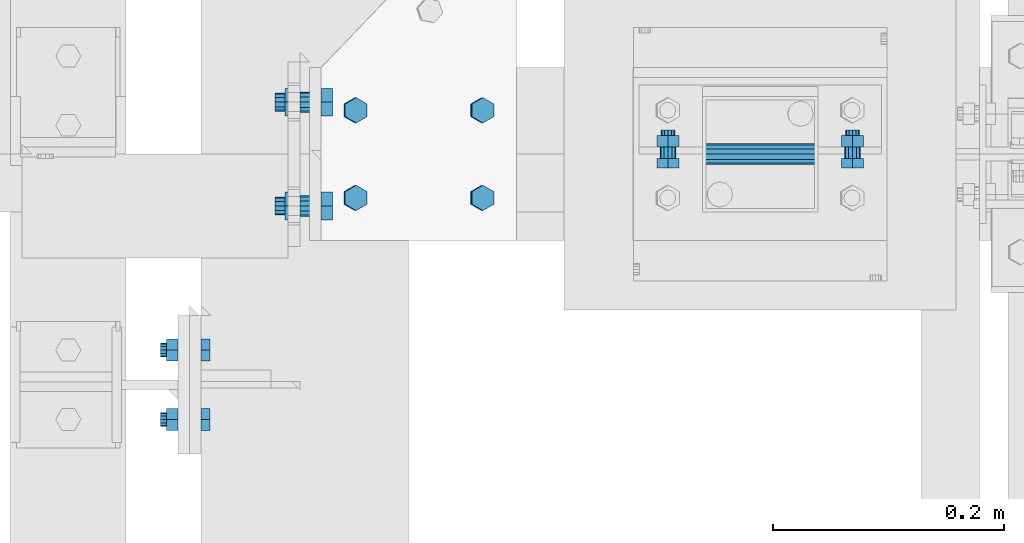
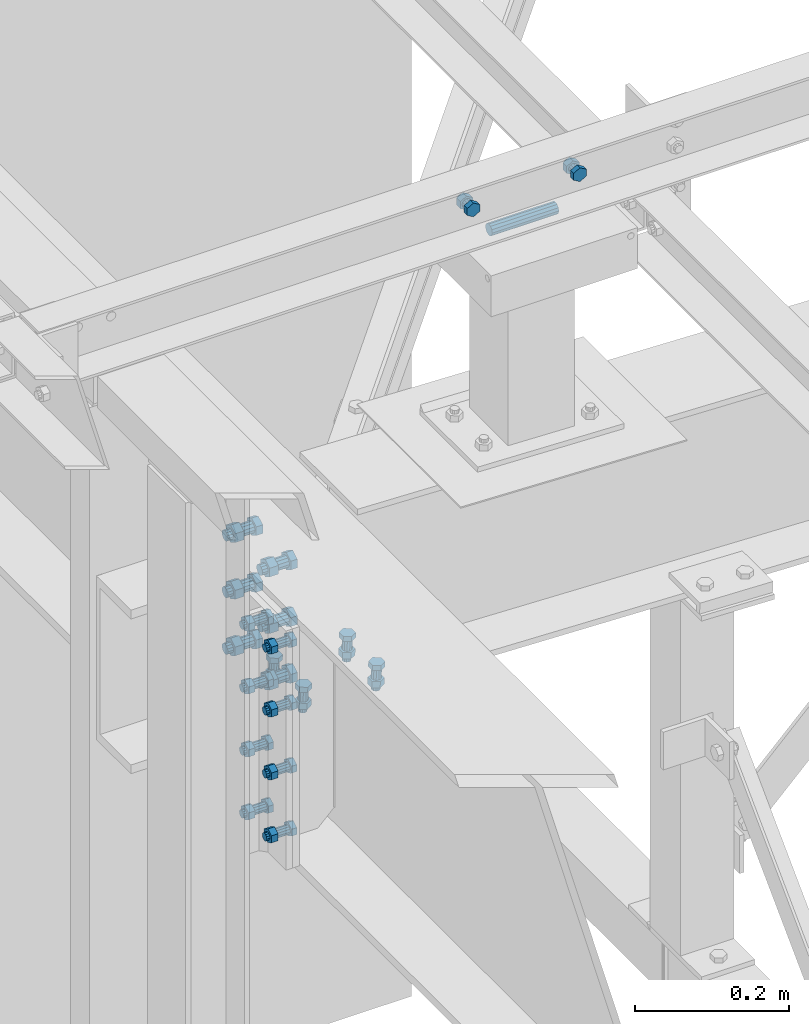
# One storey, part 70 of 3134: 5 mechanical fasteners, 3 elements without a shape of their own.
"""IFC2X3 building model written with IfcOpenShell, lengths in millimetres."""

from ifc_helpers import new_model, si_unit, frame, origin_with_axes, place, context, subcontext, project, spatial, faceted_brep, source, transform, mapped, material, type_object, element, aggregate, save


model = new_model("IFC2X3")

# Units and contexts
model_context = context("Model", 3, precision=1e-05, world=origin_with_axes())
body_context = subcontext(model_context, "Body", "Model", "MODEL_VIEW")
ifc_project = project(units=[si_unit("LENGTHUNIT", "METRE", prefix="MILLI"), si_unit("AREAUNIT", "SQUARE_METRE"), si_unit("VOLUMEUNIT", "CUBIC_METRE"), si_unit("MASSUNIT", "GRAM", prefix="KILO"), si_unit("TIMEUNIT", "SECOND"), si_unit("PLANEANGLEUNIT", "RADIAN"), si_unit("SOLIDANGLEUNIT", "STERADIAN"), si_unit("THERMODYNAMICTEMPERATUREUNIT", "DEGREE_CELSIUS"), si_unit("LUMINOUSINTENSITYUNIT", "LUMEN")], contexts=[model_context])

# Site, building, storey
site_placement = place(None, origin_with_axes())
site = spatial("IfcSite", under=ifc_project, at=site_placement, CompositionType="ELEMENT")
building_placement = place(site_placement, origin_with_axes())
building = spatial("IfcBuilding", under=site, at=building_placement, Name="Undefined", CompositionType="ELEMENT")
storey_placement = place(building_placement, origin_with_axes())
storey = spatial("IfcBuildingStorey", under=building, at=storey_placement, Name="Undefined", CompositionType="ELEMENT", Elevation=0.0)

# Assembly, mechanical fastener
assembly_1_placement = place(storey_placement, origin_with_axes())
assembly_1 = element("IfcElementAssembly", 1, at=assembly_1_placement, inside=storey, Name="IPE400", AssemblyPlace="NOTDEFINED", PredefinedType="RIGID_FRAME")
ifc_material = material(Name="8.8")
mechanical_fastener_type = type_object("IfcMechanicalFastenerType", Name="Bolt assembly")
shared_shape_1 = source(origin_with_axes(), body_context, "Body", "Brep", [
    faceted_brep([(10.9696551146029, -18.0, 0.0), (5.48482755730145, -18.0, 9.5), (-5.48482755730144, -18.0, 9.5), (-10.9696551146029, -18.0, 1.34339530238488e-15), (-5.48482755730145, -18.0, -9.5), (5.48482755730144, -18.0, -9.50000000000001), (5.48482755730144, -10.0, -9.50000000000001), (-5.48482755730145, -10.0, -9.5), (-10.9696551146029, -10.0, 1.34339530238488e-15), (-5.48482755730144, -10.0, 9.5), (5.48482755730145, -10.0, 9.5), (10.9696551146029, -10.0, 0.0), (6.0, -10.0, 0.0), (5.19615242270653, -10.0, 3.00000000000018), (2.99999999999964, -10.0, 5.19615242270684), (-6.21801588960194e-13, -10.0, 6.0), (-3.00000000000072, -10.0, 5.19615242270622), (-5.19615242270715, -10.0, 2.9999999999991), (-6.0, -10.0, -1.24360317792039e-12), (-5.19615242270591, -10.0, -3.00000000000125), (-2.99999999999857, -10.0, -5.19615242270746), (1.85874342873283e-12, -10.0, -6.0), (3.00000000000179, -10.0, -5.1961524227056), (5.19615242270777, -10.0, -2.99999999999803), (5.19615242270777, 24.9999999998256, -2.99999999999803), (3.00000000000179, 24.9999999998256, -5.1961524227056), (1.85874342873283e-12, 24.9999999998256, -6.0), (-2.99999999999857, 24.9999999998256, -5.19615242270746), (-5.19615242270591, 24.9999999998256, -3.00000000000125), (-6.0, 24.9999999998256, -1.24360317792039e-12), (-5.19615242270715, 24.9999999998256, 2.9999999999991), (-3.00000000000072, 24.9999999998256, 5.19615242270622), (-6.21801588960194e-13, 24.9999999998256, 6.0), (2.99999999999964, 24.9999999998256, 5.19615242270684), (5.19615242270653, 24.9999999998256, 3.00000000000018), (6.0, 24.9999999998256, 0.0), (10.9696551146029, 10.0, 0.0), (5.48482755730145, 10.0, 9.5), (-5.48482755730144, 10.0, 9.5), (-10.9696551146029, 10.0, 1.34339530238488e-15), (-5.48482755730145, 10.0, -9.5), (5.48482755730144, 10.0, -9.50000000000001), (5.48482755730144, 20.0, -9.50000000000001), (-5.48482755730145, 20.0, -9.5), (-10.9696551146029, 20.0, 1.34339530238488e-15), (-5.48482755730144, 20.0, 9.5), (5.48482755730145, 20.0, 9.5), (10.9696551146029, 20.0, 0.0)], [[[0, 1, 2, 3, 4, 5]], [[6, 7, 8, 9, 10, 11]], [[0, 11, 10, 1]], [[1, 10, 9, 2]], [[2, 9, 8, 3]], [[3, 8, 7, 4]], [[4, 7, 6, 5]], [[5, 6, 11, 0]], [[12, 13, 14, 15, 16, 17, 18, 19, 20, 21, 22, 23]], [[24, 25, 26, 27, 28, 29, 30, 31, 32, 33, 34, 35]], [[12, 35, 34, 13]], [[13, 34, 33, 14]], [[14, 33, 32, 15]], [[15, 32, 31, 16]], [[16, 31, 30, 17]], [[17, 30, 29, 18]], [[18, 29, 28, 19]], [[19, 28, 27, 20]], [[20, 27, 26, 21]], [[21, 26, 25, 22]], [[22, 25, 24, 23]], [[23, 24, 35, 12]], [[36, 37, 38, 39, 40, 41]], [[42, 43, 44, 45, 46, 47]], [[36, 47, 46, 37]], [[37, 46, 45, 38]], [[38, 45, 44, 39]], [[39, 44, 43, 40]], [[40, 43, 42, 41]], [[41, 42, 47, 36]]]),
    faceted_brep([(7.0, -0.1, 0.0), (6.06217782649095, -0.1, 3.50000000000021), (3.49999999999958, -0.1, 6.06217782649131), (-7.25435187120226e-13, -0.1, 7.0), (-3.50000000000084, -0.1, 6.06217782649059), (-6.06217782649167, -0.1, 3.49999999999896), (-7.0, -0.1, -1.45087037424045e-12), (-6.06217782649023, -0.1, -3.50000000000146), (-3.49999999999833, -0.1, -6.06217782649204), (2.1685340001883e-12, -0.1, -7.0), (3.50000000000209, -0.1, -6.06217782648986), (6.0621778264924, -0.1, -3.4999999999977), (6.0621778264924, 10.0, -3.4999999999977), (3.50000000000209, 10.0, -6.06217782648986), (2.1685340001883e-12, 10.0, -7.0), (-3.49999999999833, 10.0, -6.06217782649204), (-6.06217782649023, 10.0, -3.50000000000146), (-7.0, 10.0, -1.45087037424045e-12), (-6.06217782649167, 10.0, 3.49999999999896), (-3.50000000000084, 10.0, 6.06217782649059), (-7.25435187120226e-13, 10.0, 7.0), (3.49999999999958, 10.0, 6.06217782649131), (6.06217782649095, 10.0, 3.50000000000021), (7.0, 10.0, 0.0), (7.0, -9.89999913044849, 0.0), (6.06217782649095, -9.89999913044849, 3.50000000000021), (3.49999999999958, -9.89999913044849, 6.06217782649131), (-7.25435187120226e-13, -9.89999913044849, 7.0), (-3.50000000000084, -9.89999913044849, 6.06217782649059), (-6.06217782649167, -9.89999913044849, 3.49999999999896), (-7.0, -9.89999913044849, -1.45087037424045e-12), (-6.06217782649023, -9.89999913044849, -3.50000000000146), (-3.49999999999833, -9.89999913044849, -6.06217782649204), (2.1685340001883e-12, -9.89999913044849, -7.0), (3.50000000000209, -9.89999913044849, -6.06217782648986), (6.0621778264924, -9.89999913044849, -3.4999999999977), (6.0621778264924, 0.0999999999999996, -3.4999999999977), (3.50000000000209, 0.0999999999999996, -6.06217782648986), (2.1685340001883e-12, 0.0999999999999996, -7.0), (-3.49999999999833, 0.0999999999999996, -6.06217782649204), (-6.06217782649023, 0.0999999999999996, -3.50000000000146), (-7.0, 0.0999999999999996, -1.45087037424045e-12), (-6.06217782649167, 0.0999999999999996, 3.49999999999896), (-3.50000000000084, 0.0999999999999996, 6.06217782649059), (-7.25435187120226e-13, 0.0999999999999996, 7.0), (3.49999999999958, 0.0999999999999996, 6.06217782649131), (6.06217782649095, 0.0999999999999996, 3.50000000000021), (7.0, 0.0999999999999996, 0.0)], [[[0, 1, 2, 3, 4, 5, 6, 7, 8, 9, 10, 11]], [[12, 13, 14, 15, 16, 17, 18, 19, 20, 21, 22, 23]], [[0, 23, 22, 1]], [[1, 22, 21, 2]], [[2, 21, 20, 3]], [[3, 20, 19, 4]], [[4, 19, 18, 5]], [[5, 18, 17, 6]], [[6, 17, 16, 7]], [[7, 16, 15, 8]], [[8, 15, 14, 9]], [[9, 14, 13, 10]], [[10, 13, 12, 11]], [[11, 12, 23, 0]], [[24, 25, 26, 27, 28, 29, 30, 31, 32, 33, 34, 35]], [[36, 37, 38, 39, 40, 41, 42, 43, 44, 45, 46, 47]], [[24, 47, 46, 25]], [[25, 46, 45, 26]], [[26, 45, 44, 27]], [[27, 44, 43, 28]], [[28, 43, 42, 29]], [[29, 42, 41, 30]], [[30, 41, 40, 31]], [[31, 40, 39, 32]], [[32, 39, 38, 33]], [[33, 38, 37, 34]], [[34, 37, 36, 35]], [[35, 36, 47, 24]]]),
])
mechanical_fastener_1_placement = place(assembly_1_placement, frame((-100.0, 29375.0, 3990.0), z_axis=(0.0, 1.0, 0.0), x_axis=(0.0, 0.0, -1.0)))
mechanical_fastener_1 = element("IfcMechanicalFastener", 2, at=mechanical_fastener_1_placement, type_object=mechanical_fastener_type, material=ifc_material, Name="Bolt assembly", NominalDiameter=12.0, NominalLength=35.0, context=body_context, shape_type="MappedRepresentation", body=[
    mapped(shared_shape_1, transform((0.0, 4.54747350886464e-13, -30.0000000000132))),
    mapped(shared_shape_1, transform((100.0, 0.0, -30.0))),
    mapped(shared_shape_1, transform((200.0, 0.0, -30.0))),
    mapped(shared_shape_1, transform((300.0, 0.0, -30.0))),
    mapped(shared_shape_1, transform((0.0, 4.54747350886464e-13, 30.0000000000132))),
    mapped(shared_shape_1, transform((100.0, 0.0, 30.0))),
    mapped(shared_shape_1, transform((200.0, 0.0, 30.0))),
    mapped(shared_shape_1, transform((300.0, 0.0, 30.0))),
])

assembly_2_placement = place(storey_placement, origin_with_axes())
assembly_2 = element("IfcElementAssembly", 3, at=assembly_2_placement, inside=storey, Name="PL8", AssemblyPlace="NOTDEFINED", PredefinedType="RIGID_FRAME")
shared_shape_2 = source(origin_with_axes(), body_context, "Body", "Brep", [
    faceted_brep([(10.9696551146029, -21.2000017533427, 0.0), (5.48482755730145, -21.2000017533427, 9.5), (-5.48482755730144, -21.2000017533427, 9.5), (-10.9696551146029, -21.2000017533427, 1.34339530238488e-15), (-5.48482755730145, -21.2000017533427, -9.5), (5.48482755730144, -21.2000017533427, -9.50000000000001), (5.48482755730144, -13.2000017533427, -9.50000000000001), (-5.48482755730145, -13.2000017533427, -9.5), (-10.9696551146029, -13.2000017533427, 1.34339530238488e-15), (-5.48482755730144, -13.2000017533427, 9.5), (5.48482755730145, -13.2000017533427, 9.5), (10.9696551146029, -13.2000017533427, 0.0), (6.0, -13.2000017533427, 0.0), (5.19615242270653, -13.2000017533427, 3.00000000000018), (2.99999999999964, -13.2000017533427, 5.19615242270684), (-6.21801588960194e-13, -13.2000017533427, 6.0), (-3.00000000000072, -13.2000017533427, 5.19615242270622), (-5.19615242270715, -13.2000017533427, 2.9999999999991), (-6.0, -13.2000017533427, -1.24360317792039e-12), (-5.19615242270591, -13.2000017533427, -3.00000000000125), (-2.99999999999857, -13.2000017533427, -5.19615242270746), (1.85874342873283e-12, -13.2000017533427, -6.0), (3.00000000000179, -13.2000017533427, -5.1961524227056), (5.19615242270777, -13.2000017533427, -2.99999999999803), (5.19615242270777, 21.7999982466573, -2.99999999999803), (3.00000000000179, 21.7999982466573, -5.1961524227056), (1.85874342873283e-12, 21.7999982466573, -6.0), (-2.99999999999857, 21.7999982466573, -5.19615242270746), (-5.19615242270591, 21.7999982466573, -3.00000000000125), (-6.0, 21.7999982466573, -1.24360317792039e-12), (-5.19615242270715, 21.7999982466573, 2.9999999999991), (-3.00000000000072, 21.7999982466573, 5.19615242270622), (-6.21801588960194e-13, 21.7999982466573, 6.0), (2.99999999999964, 21.7999982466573, 5.19615242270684), (5.19615242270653, 21.7999982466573, 3.00000000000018), (6.0, 21.7999982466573, 0.0), (10.9696551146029, 4.00000000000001, 0.0), (5.48482755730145, 4.00000000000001, 9.5), (-5.48482755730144, 4.00000000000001, 9.5), (-10.9696551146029, 4.00000000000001, 1.34339530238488e-15), (-5.48482755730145, 4.00000000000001, -9.5), (5.48482755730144, 4.00000000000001, -9.50000000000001), (5.48482755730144, 14.0, -9.50000000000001), (-5.48482755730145, 14.0, -9.5), (-10.9696551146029, 14.0, 1.34339530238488e-15), (-5.48482755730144, 14.0, 9.5), (5.48482755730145, 14.0, 9.5), (10.9696551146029, 14.0, 0.0)], [[[0, 1, 2, 3, 4, 5]], [[6, 7, 8, 9, 10, 11]], [[0, 11, 10, 1]], [[1, 10, 9, 2]], [[2, 9, 8, 3]], [[3, 8, 7, 4]], [[4, 7, 6, 5]], [[5, 6, 11, 0]], [[12, 13, 14, 15, 16, 17, 18, 19, 20, 21, 22, 23]], [[24, 25, 26, 27, 28, 29, 30, 31, 32, 33, 34, 35]], [[12, 35, 34, 13]], [[13, 34, 33, 14]], [[14, 33, 32, 15]], [[15, 32, 31, 16]], [[16, 31, 30, 17]], [[17, 30, 29, 18]], [[18, 29, 28, 19]], [[19, 28, 27, 20]], [[20, 27, 26, 21]], [[21, 26, 25, 22]], [[22, 25, 24, 23]], [[23, 24, 35, 12]], [[36, 37, 38, 39, 40, 41]], [[42, 43, 44, 45, 46, 47]], [[36, 47, 46, 37]], [[37, 46, 45, 38]], [[38, 45, 44, 39]], [[39, 44, 43, 40]], [[40, 43, 42, 41]], [[41, 42, 47, 36]]]),
    faceted_brep([(7.0, -13.1000017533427, 0.0), (6.06217782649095, -13.1000017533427, 3.50000000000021), (3.49999999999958, -13.1000017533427, 6.06217782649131), (-7.25435187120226e-13, -13.1000017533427, 7.0), (-3.50000000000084, -13.1000017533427, 6.06217782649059), (-6.06217782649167, -13.1000017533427, 3.49999999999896), (-7.0, -13.1000017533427, -1.45087037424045e-12), (-6.06217782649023, -13.1000017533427, -3.50000000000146), (-3.49999999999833, -13.1000017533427, -6.06217782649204), (2.1685340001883e-12, -13.1000017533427, -7.0), (3.50000000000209, -13.1000017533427, -6.06217782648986), (6.0621778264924, -13.1000017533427, -3.4999999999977), (6.0621778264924, -3.9, -3.4999999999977), (3.50000000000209, -3.9, -6.06217782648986), (2.1685340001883e-12, -3.9, -7.0), (-3.49999999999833, -3.9, -6.06217782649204), (-6.06217782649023, -3.9, -3.50000000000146), (-7.0, -3.9, -1.45087037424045e-12), (-6.06217782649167, -3.9, 3.49999999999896), (-3.50000000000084, -3.9, 6.06217782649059), (-7.25435187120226e-13, -3.9, 7.0), (3.49999999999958, -3.9, 6.06217782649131), (6.06217782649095, -3.9, 3.50000000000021), (7.0, -3.9, 0.0), (7.0, -4.09998541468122, 0.0), (6.06217782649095, -4.09998541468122, 3.50000000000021), (3.49999999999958, -4.09998541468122, 6.06217782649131), (-7.25435187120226e-13, -4.09998541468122, 7.0), (-3.50000000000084, -4.09998541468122, 6.06217782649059), (-6.06217782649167, -4.09998541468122, 3.49999999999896), (-7.0, -4.09998541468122, -1.45087037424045e-12), (-6.06217782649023, -4.09998541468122, -3.50000000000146), (-3.49999999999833, -4.09998541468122, -6.06217782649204), (2.1685340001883e-12, -4.09998541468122, -7.0), (3.50000000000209, -4.09998541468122, -6.06217782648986), (6.0621778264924, -4.09998541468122, -3.4999999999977), (6.0621778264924, 4.00000000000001, -3.4999999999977), (3.50000000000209, 4.00000000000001, -6.06217782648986), (2.1685340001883e-12, 4.00000000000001, -7.0), (-3.49999999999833, 4.00000000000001, -6.06217782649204), (-6.06217782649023, 4.00000000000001, -3.50000000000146), (-7.0, 4.00000000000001, -1.45087037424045e-12), (-6.06217782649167, 4.00000000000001, 3.49999999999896), (-3.50000000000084, 4.00000000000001, 6.06217782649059), (-7.25435187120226e-13, 4.00000000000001, 7.0), (3.49999999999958, 4.00000000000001, 6.06217782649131), (6.06217782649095, 4.00000000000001, 3.50000000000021), (7.0, 4.00000000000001, 0.0)], [[[0, 1, 2, 3, 4, 5, 6, 7, 8, 9, 10, 11]], [[12, 13, 14, 15, 16, 17, 18, 19, 20, 21, 22, 23]], [[0, 23, 22, 1]], [[1, 22, 21, 2]], [[2, 21, 20, 3]], [[3, 20, 19, 4]], [[4, 19, 18, 5]], [[5, 18, 17, 6]], [[6, 17, 16, 7]], [[7, 16, 15, 8]], [[8, 15, 14, 9]], [[9, 14, 13, 10]], [[10, 13, 12, 11]], [[11, 12, 23, 0]], [[24, 25, 26, 27, 28, 29, 30, 31, 32, 33, 34, 35]], [[36, 37, 38, 39, 40, 41, 42, 43, 44, 45, 46, 47]], [[24, 47, 46, 25]], [[25, 46, 45, 26]], [[26, 45, 44, 27]], [[27, 44, 43, 28]], [[28, 43, 42, 29]], [[29, 42, 41, 30]], [[30, 41, 40, 31]], [[31, 40, 39, 32]], [[32, 39, 38, 33]], [[33, 38, 37, 34]], [[34, 37, 36, 35]], [[35, 36, 47, 24]]]),
])
mechanical_fastener_2_placement = place(assembly_2_placement, frame((98.8101435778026, 29537.0, 3735.35728006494), z_axis=(-0.999388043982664, 0.0, 0.0349791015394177), x_axis=(0.0, 1.0, 0.0)))
mechanical_fastener_2 = element("IfcMechanicalFastener", 4, at=mechanical_fastener_2_placement, type_object=mechanical_fastener_type, material=ifc_material, Name="Bolt assembly", NominalDiameter=12.0, NominalLength=35.0, context=body_context, shape_type="MappedRepresentation", body=[
    mapped(shared_shape_2, transform((0.0, -2.31011654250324e-10, -55.0000000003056))),
    mapped(shared_shape_2, transform((76.0, -2.31011654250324e-10, -55.0000000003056))),
    mapped(shared_shape_2, transform((0.0, 2.29192664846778e-10, 55.0000000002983))),
    mapped(shared_shape_2, transform((76.0, 2.29192664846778e-10, 55.0000000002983))),
])
aggregate(assembly_2, [mechanical_fastener_2])

# Assembly, mechanical fasteners
assembly_3_placement = place(storey_placement, origin_with_axes())
assembly_3 = element("IfcElementAssembly", 5, at=assembly_3_placement, inside=storey, AssemblyPlace="NOTDEFINED", PredefinedType="RIGID_FRAME")
shared_shape_3 = source(origin_with_axes(), body_context, "Body", "Brep", [
    faceted_brep([(9.0, -50.0, 0.0), (7.79422863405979, -50.0, 4.50000000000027), (4.49999999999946, -50.0, 7.79422863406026), (-9.3270238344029e-13, -50.0, 9.0), (-4.50000000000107, -50.0, 7.79422863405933), (-7.79422863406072, -50.0, 4.49999999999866), (-9.0, -50.0, -1.86540476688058e-12), (-7.79422863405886, -50.0, -4.50000000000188), (-4.49999999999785, -50.0, -7.79422863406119), (2.78811514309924e-12, -50.0, -9.0), (4.50000000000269, -50.0, -7.7942286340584), (7.79422863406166, -50.0, -4.49999999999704), (7.79422863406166, 50.1, -4.49999999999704), (4.50000000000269, 50.1, -7.7942286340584), (2.78811514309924e-12, 50.1, -9.0), (-4.49999999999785, 50.1, -7.79422863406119), (-7.79422863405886, 50.1, -4.50000000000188), (-9.0, 50.1, -1.86540476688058e-12), (-7.79422863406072, 50.1, 4.49999999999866), (-4.50000000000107, 50.1, 7.79422863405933), (-9.3270238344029e-13, 50.1, 9.0), (4.49999999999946, 50.1, 7.79422863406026), (7.79422863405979, 50.1, 4.50000000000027), (9.0, 50.1, 0.0)], [[[0, 1, 2, 3, 4, 5, 6, 7, 8, 9, 10, 11]], [[12, 13, 14, 15, 16, 17, 18, 19, 20, 21, 22, 23]], [[0, 23, 22, 1]], [[1, 22, 21, 2]], [[2, 21, 20, 3]], [[3, 20, 19, 4]], [[4, 19, 18, 5]], [[5, 18, 17, 6]], [[6, 17, 16, 7]], [[7, 16, 15, 8]], [[8, 15, 14, 9]], [[9, 14, 13, 10]], [[10, 13, 12, 11]], [[11, 12, 23, 0]]]),
])
mechanical_fastener_3_placement = place(assembly_3_placement, frame((395.0, 29575.0, 4351.0), z_axis=(0.0, 1.0, 0.0), x_axis=(0.0, 0.0, 1.0)))
mechanical_fastener_3 = element("IfcMechanicalFastener", 6, at=mechanical_fastener_3_placement, type_object=mechanical_fastener_type, material=ifc_material, Name="Bolt assembly", NominalDiameter=16.0, NominalLength=100.0, context=body_context, shape_type="MappedRepresentation", body=[
    mapped(shared_shape_3, transform((0.0, 0.0, 0.0))),
])
shared_shape_4 = source(origin_with_axes(), body_context, "Body", "Brep", [
    faceted_brep([(10.9696551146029, -12.0, 0.0), (5.48482755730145, -12.0, 9.5), (-5.48482755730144, -12.0, 9.5), (-10.9696551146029, -12.0, 1.34339530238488e-15), (-5.48482755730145, -12.0, -9.5), (5.48482755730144, -12.0, -9.50000000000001), (5.48482755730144, -4.0, -9.50000000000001), (-5.48482755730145, -4.0, -9.5), (-10.9696551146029, -4.0, 1.34339530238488e-15), (-5.48482755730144, -4.0, 9.5), (5.48482755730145, -4.0, 9.5), (10.9696551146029, -4.0, 0.0), (6.0, -4.0, 0.0), (5.19615242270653, -4.0, 3.00000000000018), (2.99999999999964, -4.0, 5.19615242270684), (-6.21801588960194e-13, -4.0, 6.0), (-3.00000000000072, -4.0, 5.19615242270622), (-5.19615242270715, -4.0, 2.9999999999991), (-6.0, -4.0, -1.24360317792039e-12), (-5.19615242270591, -4.0, -3.00000000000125), (-2.99999999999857, -4.0, -5.19615242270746), (1.85874342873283e-12, -4.0, -6.0), (3.00000000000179, -4.0, -5.1961524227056), (5.19615242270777, -4.0, -2.99999999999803), (5.19615242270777, 21.0, -2.99999999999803), (3.00000000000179, 21.0, -5.1961524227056), (1.85874342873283e-12, 21.0, -6.0), (-2.99999999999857, 21.0, -5.19615242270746), (-5.19615242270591, 21.0, -3.00000000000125), (-6.0, 21.0, -1.24360317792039e-12), (-5.19615242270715, 21.0, 2.9999999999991), (-3.00000000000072, 21.0, 5.19615242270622), (-6.21801588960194e-13, 21.0, 6.0), (2.99999999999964, 21.0, 5.19615242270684), (5.19615242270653, 21.0, 3.00000000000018), (6.0, 21.0, 0.0), (10.9696551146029, 6.00000000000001, 0.0), (5.48482755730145, 6.00000000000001, 9.5), (-5.48482755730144, 6.00000000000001, 9.5), (-10.9696551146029, 6.00000000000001, 1.34339530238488e-15), (-5.48482755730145, 6.00000000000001, -9.5), (5.48482755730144, 6.00000000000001, -9.50000000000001), (5.48482755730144, 16.0, -9.50000000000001), (-5.48482755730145, 16.0, -9.5), (-10.9696551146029, 16.0, 1.34339530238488e-15), (-5.48482755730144, 16.0, 9.5), (5.48482755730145, 16.0, 9.5), (10.9696551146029, 16.0, 0.0)], [[[0, 1, 2, 3, 4, 5]], [[6, 7, 8, 9, 10, 11]], [[0, 11, 10, 1]], [[1, 10, 9, 2]], [[2, 9, 8, 3]], [[3, 8, 7, 4]], [[4, 7, 6, 5]], [[5, 6, 11, 0]], [[12, 13, 14, 15, 16, 17, 18, 19, 20, 21, 22, 23]], [[24, 25, 26, 27, 28, 29, 30, 31, 32, 33, 34, 35]], [[12, 35, 34, 13]], [[13, 34, 33, 14]], [[14, 33, 32, 15]], [[15, 32, 31, 16]], [[16, 31, 30, 17]], [[17, 30, 29, 18]], [[18, 29, 28, 19]], [[19, 28, 27, 20]], [[20, 27, 26, 21]], [[21, 26, 25, 22]], [[22, 25, 24, 23]], [[23, 24, 35, 12]], [[36, 37, 38, 39, 40, 41]], [[42, 43, 44, 45, 46, 47]], [[36, 47, 46, 37]], [[37, 46, 45, 38]], [[38, 45, 44, 39]], [[39, 44, 43, 40]], [[40, 43, 42, 41]], [[41, 42, 47, 36]]]),
    faceted_brep([(7.0, -3.9, 0.0), (6.06217782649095, -3.9, 3.50000000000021), (3.49999999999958, -3.9, 6.06217782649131), (-7.25435187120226e-13, -3.9, 7.0), (-3.50000000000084, -3.9, 6.06217782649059), (-6.06217782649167, -3.9, 3.49999999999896), (-7.0, -3.9, -1.45087037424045e-12), (-6.06217782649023, -3.9, -3.50000000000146), (-3.49999999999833, -3.9, -6.06217782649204), (2.1685340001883e-12, -3.9, -7.0), (3.50000000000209, -3.9, -6.06217782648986), (6.0621778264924, -3.9, -3.4999999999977), (6.0621778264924, 0.0999999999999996, -3.4999999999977), (3.50000000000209, 0.0999999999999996, -6.06217782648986), (2.1685340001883e-12, 0.0999999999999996, -7.0), (-3.49999999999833, 0.0999999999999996, -6.06217782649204), (-6.06217782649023, 0.0999999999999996, -3.50000000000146), (-7.0, 0.0999999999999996, -1.45087037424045e-12), (-6.06217782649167, 0.0999999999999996, 3.49999999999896), (-3.50000000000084, 0.0999999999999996, 6.06217782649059), (-7.25435187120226e-13, 0.0999999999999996, 7.0), (3.49999999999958, 0.0999999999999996, 6.06217782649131), (6.06217782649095, 0.0999999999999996, 3.50000000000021), (7.0, 0.0999999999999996, 0.0), (7.0, -0.1, 0.0), (6.06217782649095, -0.1, 3.50000000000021), (3.49999999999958, -0.1, 6.06217782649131), (-7.25435187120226e-13, -0.1, 7.0), (-3.50000000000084, -0.1, 6.06217782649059), (-6.06217782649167, -0.1, 3.49999999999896), (-7.0, -0.1, -1.45087037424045e-12), (-6.06217782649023, -0.1, -3.50000000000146), (-3.49999999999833, -0.1, -6.06217782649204), (2.1685340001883e-12, -0.1, -7.0), (3.50000000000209, -0.1, -6.06217782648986), (6.0621778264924, -0.1, -3.4999999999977), (6.0621778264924, 6.00000000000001, -3.4999999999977), (3.50000000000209, 6.00000000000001, -6.06217782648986), (2.1685340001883e-12, 6.00000000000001, -7.0), (-3.49999999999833, 6.00000000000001, -6.06217782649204), (-6.06217782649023, 6.00000000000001, -3.50000000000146), (-7.0, 6.00000000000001, -1.45087037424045e-12), (-6.06217782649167, 6.00000000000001, 3.49999999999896), (-3.50000000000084, 6.00000000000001, 6.06217782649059), (-7.25435187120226e-13, 6.00000000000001, 7.0), (3.49999999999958, 6.00000000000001, 6.06217782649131), (6.06217782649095, 6.00000000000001, 3.50000000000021), (7.0, 6.00000000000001, 0.0)], [[[0, 1, 2, 3, 4, 5, 6, 7, 8, 9, 10, 11]], [[12, 13, 14, 15, 16, 17, 18, 19, 20, 21, 22, 23]], [[0, 23, 22, 1]], [[1, 22, 21, 2]], [[2, 21, 20, 3]], [[3, 20, 19, 4]], [[4, 19, 18, 5]], [[5, 18, 17, 6]], [[6, 17, 16, 7]], [[7, 16, 15, 8]], [[8, 15, 14, 9]], [[9, 14, 13, 10]], [[10, 13, 12, 11]], [[11, 12, 23, 0]], [[24, 25, 26, 27, 28, 29, 30, 31, 32, 33, 34, 35]], [[36, 37, 38, 39, 40, 41, 42, 43, 44, 45, 46, 47]], [[24, 47, 46, 25]], [[25, 46, 45, 26]], [[26, 45, 44, 27]], [[27, 44, 43, 28]], [[28, 43, 42, 29]], [[29, 42, 41, 30]], [[30, 41, 40, 31]], [[31, 40, 39, 32]], [[32, 39, 38, 33]], [[33, 38, 37, 34]], [[34, 37, 36, 35]], [[35, 36, 47, 24]]]),
])
mechanical_fastener_4_placement = place(assembly_3_placement, frame((394.999950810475, 29574.999683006, 4400.0), z_axis=(1.0, 0.0, 0.0), x_axis=(0.0, 0.0, -1.0)))
mechanical_fastener_4 = element("IfcMechanicalFastener", 7, at=mechanical_fastener_4_placement, type_object=mechanical_fastener_type, material=ifc_material, Name="Bolt assembly", NominalDiameter=12.0, NominalLength=25.0, context=body_context, shape_type="MappedRepresentation", body=[
    mapped(shared_shape_4, transform((0.0, -5.32963895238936e-10, -79.9999999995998))),
    mapped(shared_shape_4, transform((0.0, 5.3114490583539e-10, 79.9999999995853))),
])
aggregate(assembly_3, [mechanical_fastener_3, mechanical_fastener_4])

# Mechanical fastener
shared_shape_5 = source(origin_with_axes(), body_context, "Body", "Brep", [
    faceted_brep([(13.856406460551, -10.0, 0.0), (6.92820323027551, -10.0, 12.0), (-6.92820323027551, -10.0, 12.0), (-13.856406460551, -10.0, 1.69692038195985e-15), (-6.92820323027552, -10.0, -12.0), (6.9282032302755, -10.0, -12.0), (6.9282032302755, 0.0, -12.0), (-6.92820323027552, 0.0, -12.0), (-13.856406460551, 0.0, 1.69692038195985e-15), (-6.92820323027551, 0.0, 12.0), (6.92820323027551, 0.0, 12.0), (13.856406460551, 0.0, 0.0), (8.0, 0.0, 0.0), (6.92820323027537, 0.0, 4.00000000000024), (3.99999999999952, 0.0, 6.92820323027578), (-8.29068785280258e-13, 0.0, 8.0), (-4.00000000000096, 0.0, 6.92820323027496), (-6.9282032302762, 0.0, 3.99999999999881), (-8.0, 0.0, -1.65813757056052e-12), (-6.92820323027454, 0.0, -4.00000000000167), (-3.99999999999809, 0.0, -6.92820323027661), (2.47832457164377e-12, 0.0, -8.0), (4.00000000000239, 0.0, -6.92820323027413), (6.92820323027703, 0.0, -3.99999999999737), (6.92820323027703, 40.0, -3.99999999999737), (4.00000000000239, 40.0, -6.92820323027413), (2.47832457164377e-12, 40.0, -8.0), (-3.99999999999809, 40.0, -6.92820323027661), (-6.92820323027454, 40.0, -4.00000000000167), (-8.0, 40.0, -1.65813757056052e-12), (-6.9282032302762, 40.0, 3.99999999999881), (-4.00000000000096, 40.0, 6.92820323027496), (-8.29068785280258e-13, 40.0, 8.0), (3.99999999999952, 40.0, 6.92820323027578), (6.92820323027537, 40.0, 4.00000000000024), (8.0, 40.0, 0.0), (13.856406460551, 18.6000003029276, 0.0), (6.92820323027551, 18.6000003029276, 12.0), (-6.92820323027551, 18.6000003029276, 12.0), (-13.856406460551, 18.6000003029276, 1.69692038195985e-15), (-6.92820323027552, 18.6000003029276, -12.0), (6.9282032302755, 18.6000003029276, -12.0), (6.9282032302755, 31.6000003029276, -12.0), (-6.92820323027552, 31.6000003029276, -12.0), (-13.856406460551, 31.6000003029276, 1.69692038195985e-15), (-6.92820323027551, 31.6000003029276, 12.0), (6.92820323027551, 31.6000003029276, 12.0), (13.856406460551, 31.6000003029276, 0.0)], [[[0, 1, 2, 3, 4, 5]], [[6, 7, 8, 9, 10, 11]], [[0, 11, 10, 1]], [[1, 10, 9, 2]], [[2, 9, 8, 3]], [[3, 8, 7, 4]], [[4, 7, 6, 5]], [[5, 6, 11, 0]], [[12, 13, 14, 15, 16, 17, 18, 19, 20, 21, 22, 23]], [[24, 25, 26, 27, 28, 29, 30, 31, 32, 33, 34, 35]], [[12, 35, 34, 13]], [[13, 34, 33, 14]], [[14, 33, 32, 15]], [[15, 32, 31, 16]], [[16, 31, 30, 17]], [[17, 30, 29, 18]], [[18, 29, 28, 19]], [[19, 28, 27, 20]], [[20, 27, 26, 21]], [[21, 26, 25, 22]], [[22, 25, 24, 23]], [[23, 24, 35, 12]], [[36, 37, 38, 39, 40, 41]], [[42, 43, 44, 45, 46, 47]], [[36, 47, 46, 37]], [[37, 46, 45, 38]], [[38, 45, 44, 39]], [[39, 44, 43, 40]], [[40, 43, 42, 41]], [[41, 42, 47, 36]]]),
    faceted_brep([(9.0, 0.100000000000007, 0.0), (7.79422863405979, 0.100000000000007, 4.50000000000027), (4.49999999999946, 0.100000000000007, 7.79422863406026), (-9.3270238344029e-13, 0.100000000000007, 9.0), (-4.50000000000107, 0.100000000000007, 7.79422863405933), (-7.79422863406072, 0.100000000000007, 4.49999999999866), (-9.0, 0.100000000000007, -1.86540476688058e-12), (-7.79422863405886, 0.100000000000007, -4.50000000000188), (-4.49999999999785, 0.100000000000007, -7.79422863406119), (2.78811514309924e-12, 0.100000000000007, -9.0), (4.50000000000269, 0.100000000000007, -7.7942286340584), (7.79422863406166, 0.100000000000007, -4.49999999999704), (7.79422863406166, 10.1000023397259, -4.49999999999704), (4.50000000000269, 10.1000023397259, -7.7942286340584), (2.78811514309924e-12, 10.1000023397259, -9.0), (-4.49999999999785, 10.1000023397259, -7.79422863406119), (-7.79422863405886, 10.1000023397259, -4.50000000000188), (-9.0, 10.1000023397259, -1.86540476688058e-12), (-7.79422863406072, 10.1000023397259, 4.49999999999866), (-4.50000000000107, 10.1000023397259, 7.79422863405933), (-9.3270238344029e-13, 10.1000023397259, 9.0), (4.49999999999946, 10.1000023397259, 7.79422863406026), (7.79422863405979, 10.1000023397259, 4.50000000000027), (9.0, 10.1000023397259, 0.0), (9.0, 9.89999999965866, 0.0), (7.79422863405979, 9.89999999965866, 4.50000000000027), (4.49999999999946, 9.89999999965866, 7.79422863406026), (-9.3270238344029e-13, 9.89999999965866, 9.0), (-4.50000000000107, 9.89999999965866, 7.79422863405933), (-7.79422863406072, 9.89999999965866, 4.49999999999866), (-9.0, 9.89999999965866, -1.86540476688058e-12), (-7.79422863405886, 9.89999999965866, -4.50000000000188), (-4.49999999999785, 9.89999999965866, -7.79422863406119), (2.78811514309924e-12, 9.89999999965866, -9.0), (4.50000000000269, 9.89999999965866, -7.7942286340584), (7.79422863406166, 9.89999999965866, -4.49999999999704), (7.79422863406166, 18.6000003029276, -4.49999999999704), (4.50000000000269, 18.6000003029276, -7.7942286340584), (2.78811514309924e-12, 18.6000003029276, -9.0), (-4.49999999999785, 18.6000003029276, -7.79422863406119), (-7.79422863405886, 18.6000003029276, -4.50000000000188), (-9.0, 18.6000003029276, -1.86540476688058e-12), (-7.79422863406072, 18.6000003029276, 4.49999999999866), (-4.50000000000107, 18.6000003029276, 7.79422863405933), (-9.3270238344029e-13, 18.6000003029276, 9.0), (4.49999999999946, 18.6000003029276, 7.79422863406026), (7.79422863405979, 18.6000003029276, 4.50000000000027), (9.0, 18.6000003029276, 0.0)], [[[0, 1, 2, 3, 4, 5, 6, 7, 8, 9, 10, 11]], [[12, 13, 14, 15, 16, 17, 18, 19, 20, 21, 22, 23]], [[0, 23, 22, 1]], [[1, 22, 21, 2]], [[2, 21, 20, 3]], [[3, 20, 19, 4]], [[4, 19, 18, 5]], [[5, 18, 17, 6]], [[6, 17, 16, 7]], [[7, 16, 15, 8]], [[8, 15, 14, 9]], [[9, 14, 13, 10]], [[10, 13, 12, 11]], [[11, 12, 23, 0]], [[24, 25, 26, 27, 28, 29, 30, 31, 32, 33, 34, 35]], [[36, 37, 38, 39, 40, 41, 42, 43, 44, 45, 46, 47]], [[24, 47, 46, 25]], [[25, 46, 45, 26]], [[26, 45, 44, 27]], [[27, 44, 43, 28]], [[28, 43, 42, 29]], [[29, 42, 41, 30]], [[30, 41, 40, 31]], [[31, 40, 39, 32]], [[32, 39, 38, 33]], [[33, 38, 37, 34]], [[34, 37, 36, 35]], [[35, 36, 47, 24]]]),
])
mechanical_fastener_5_placement = place(assembly_1_placement, frame((14.300000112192, 29575.0, 3967.31680927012), z_axis=(0.0, 1.0, 0.0), x_axis=(0.0, 0.0, -1.0)))
mechanical_fastener_5 = element("IfcMechanicalFastener", 8, at=mechanical_fastener_5_placement, type_object=mechanical_fastener_type, material=ifc_material, Name="Bolt assembly", NominalDiameter=16.0, NominalLength=40.0, context=body_context, shape_type="MappedRepresentation", body=[
    mapped(shared_shape_5, transform((0.0, 0.0, -45.0))),
    mapped(shared_shape_5, transform((90.0, 0.0, -45.0))),
    mapped(shared_shape_5, transform((180.0, 0.0, -45.0))),
    mapped(shared_shape_5, transform((0.0, 0.0, 45.0))),
    mapped(shared_shape_5, transform((90.0, 0.0, 45.0))),
    mapped(shared_shape_5, transform((180.0, 0.0, 45.0))),
])

aggregate(assembly_1, [mechanical_fastener_1, mechanical_fastener_5])

save(model, "model.ifc")
